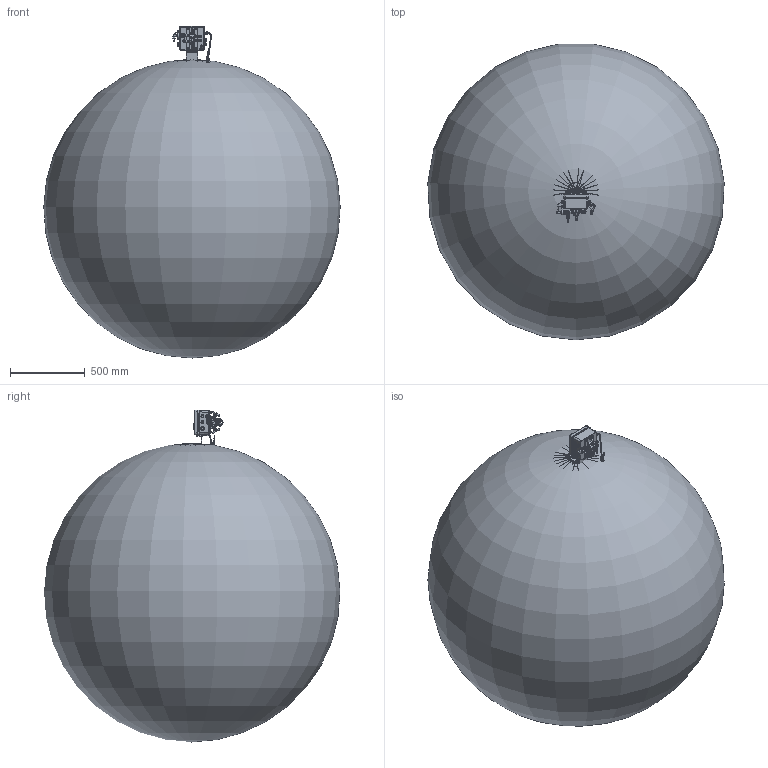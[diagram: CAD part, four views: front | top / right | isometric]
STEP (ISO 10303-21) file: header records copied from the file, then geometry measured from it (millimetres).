
FILE_DESCRIPTION(('STEP AP214'), '1');
FILE_NAME('ÑÃ-ÝÊÐ-Ò-Á DN150 ëåâûé ñ ÏÏÄ', '', ('UNSPECIFIED'), ('UNSPECIFIED'), 'C3D Converter', 'C3D Toolkit', '');
FILE_SCHEMA(('AUTOMOTIVE_DESIGN { 1 0 10303 214 3 1 1}'));
Length unit declared in the file: millimetre
Bounding box: 1985.41 x 1982.05 x 2224.17 mm (x, y, z)
Volume: 4137124134.6 mm3; surface area: 13649911.9 mm2
Topology: 15 solids, 16 shells, 4424 faces, 11506 edges, 7414 vertices
Faces by surface type: plane 1479, extrusion 1133, cylinder 1028, cone 384, bspline 252, torus 133, sphere 15
Full cylindrical faces by diameter (mm): 2 x28, 2.5 x4, 2.791 x1, 3 x3, 3.2 x2, 3.242 x10, 3.3 x2, 4 x27, 4.134 x5, 4.3 x2, 4.5 x2, 4.917 x4, 5 x17, 5.2 x4, 5.5 x6, 6 x26, 6.2 x4, 6.3 x6, 6.6 x2, 6.647 x2, 7 x11, 8 x5, 8.1 x1, 8.5 x1, 8.77 x2, 8.917 x1, 9.264 x2, 9.4 x4, 9.5 x1, 9.8 x2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
Entity records: 246650 total; most frequent: CARTESIAN_POINT 112233, ORIENTED_EDGE 21780, DIRECTION 16320, EDGE_CURVE 10893, VERTEX_POINT 7397, VECTOR 5636, EDGE_LOOP 5465, AXIS2_PLACEMENT_3D 5342
